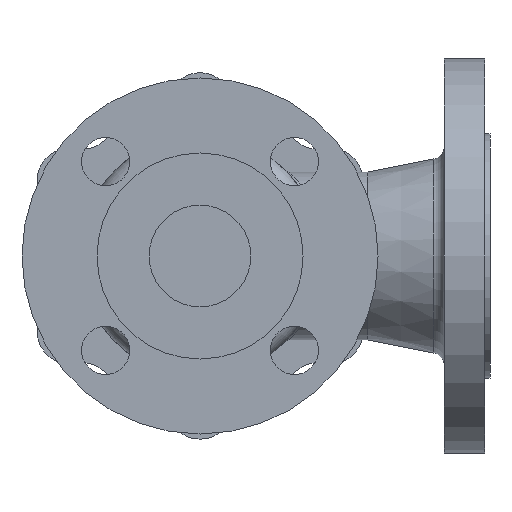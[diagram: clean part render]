
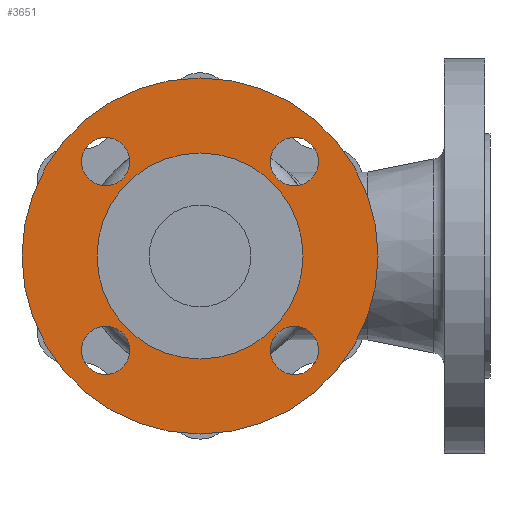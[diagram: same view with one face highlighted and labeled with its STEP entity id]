
A CAD part, front view. The second image highlights one B-rep face of the part: STEP entity #3651.
In plain terms, the highlighted planar face has unit normal (0, -1, 0).
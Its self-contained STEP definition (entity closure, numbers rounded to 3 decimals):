
#41 = DIRECTION ( 'NONE',  ( 0., 1., 0. ) ) ;
#66 = DIRECTION ( 'NONE',  ( -1., 0., 0. ) ) ;
#135 = EDGE_LOOP ( 'NONE', ( #5816, #3889 ) ) ;
#247 = EDGE_CURVE ( 'NONE', #5315, #4988, #5019, .T. ) ;
#250 = EDGE_CURVE ( 'NONE', #2681, #4029, #2945, .T. ) ;
#278 = EDGE_LOOP ( 'NONE', ( #5536, #4468 ) ) ;
#371 = VERTEX_POINT ( 'NONE', #2167 ) ;
#417 = CIRCLE ( 'NONE', #1626, 9.5 ) ;
#419 = DIRECTION ( 'NONE',  ( 0., 1., 0. ) ) ;
#459 = CARTESIAN_POINT ( 'NONE',  ( 0., -98., -70. ) ) ;
#462 = DIRECTION ( 'NONE',  ( 1., 0., 0. ) ) ;
#480 = EDGE_CURVE ( 'NONE', #4988, #5315, #1251, .T. ) ;
#511 = CARTESIAN_POINT ( 'NONE',  ( 0., -98., 0. ) ) ;
#547 = EDGE_CURVE ( 'NONE', #4622, #5573, #1762, .T. ) ;
#691 = CIRCLE ( 'NONE', #4169, 9.5 ) ;
#748 = EDGE_LOOP ( 'NONE', ( #957, #4821 ) ) ;
#783 = DIRECTION ( 'NONE',  ( 0., -1., 0. ) ) ;
#864 = DIRECTION ( 'NONE',  ( 0., -1., 0. ) ) ;
#869 = DIRECTION ( 'NONE',  ( 0., 0., -1. ) ) ;
#957 = ORIENTED_EDGE ( 'NONE', *, *, #2409, .F. ) ;
#1030 = AXIS2_PLACEMENT_3D ( 'NONE', #3151, #1311, #869 ) ;
#1067 = CARTESIAN_POINT ( 'NONE',  ( 0., -98., -40.5 ) ) ;
#1069 = VERTEX_POINT ( 'NONE', #2196 ) ;
#1185 = CARTESIAN_POINT ( 'NONE',  ( -37.123, -98., -37.123 ) ) ;
#1216 = AXIS2_PLACEMENT_3D ( 'NONE', #1185, #2556, #3986 ) ;
#1232 = CARTESIAN_POINT ( 'NONE',  ( 0., -98., 0. ) ) ;
#1247 = FACE_BOUND ( 'NONE', #3442, .T. ) ;
#1251 = CIRCLE ( 'NONE', #4725, 9.5 ) ;
#1311 = DIRECTION ( 'NONE',  ( 0., -1., 0. ) ) ;
#1392 = AXIS2_PLACEMENT_3D ( 'NONE', #1685, #5847, #3105 ) ;
#1406 = ORIENTED_EDGE ( 'NONE', *, *, #480, .F. ) ;
#1420 = CIRCLE ( 'NONE', #2311, 70. ) ;
#1489 = ORIENTED_EDGE ( 'NONE', *, *, #2377, .F. ) ;
#1626 = AXIS2_PLACEMENT_3D ( 'NONE', #1707, #783, #2696 ) ;
#1685 = CARTESIAN_POINT ( 'NONE',  ( 0., -98., 0. ) ) ;
#1707 = CARTESIAN_POINT ( 'NONE',  ( 37.123, -98., -37.123 ) ) ;
#1738 = DIRECTION ( 'NONE',  ( 0., 0., 1. ) ) ;
#1757 = AXIS2_PLACEMENT_3D ( 'NONE', #3693, #5690, #1899 ) ;
#1762 = CIRCLE ( 'NONE', #6125, 9.5 ) ;
#1856 = DIRECTION ( 'NONE',  ( 0., 1., 0. ) ) ;
#1899 = DIRECTION ( 'NONE',  ( -1., 0., 0. ) ) ;
#2036 = ORIENTED_EDGE ( 'NONE', *, *, #3388, .T. ) ;
#2100 = EDGE_CURVE ( 'NONE', #5623, #3330, #3012, .T. ) ;
#2108 = CARTESIAN_POINT ( 'NONE',  ( -37.123, -98., -46.623 ) ) ;
#2167 = CARTESIAN_POINT ( 'NONE',  ( -37.123, -98., 46.623 ) ) ;
#2173 = CARTESIAN_POINT ( 'NONE',  ( 0., -98., 70. ) ) ;
#2196 = CARTESIAN_POINT ( 'NONE',  ( 0., -98., 40.5 ) ) ;
#2252 = FACE_OUTER_BOUND ( 'NONE', #2494, .T. ) ;
#2311 = AXIS2_PLACEMENT_3D ( 'NONE', #1232, #1856, #1738 ) ;
#2347 = VERTEX_POINT ( 'NONE', #2807 ) ;
#2374 = DIRECTION ( 'NONE',  ( 0., 0., 1. ) ) ;
#2377 = EDGE_CURVE ( 'NONE', #3330, #5623, #1420, .T. ) ;
#2399 = CARTESIAN_POINT ( 'NONE',  ( -37.123, -98., -37.123 ) ) ;
#2403 = EDGE_CURVE ( 'NONE', #371, #2347, #4401, .T. ) ;
#2409 = EDGE_CURVE ( 'NONE', #5573, #4622, #417, .T. ) ;
#2487 = EDGE_LOOP ( 'NONE', ( #2036, #2990 ) ) ;
#2494 = EDGE_LOOP ( 'NONE', ( #4607, #1489 ) ) ;
#2509 = AXIS2_PLACEMENT_3D ( 'NONE', #2848, #41, #4333 ) ;
#2556 = DIRECTION ( 'NONE',  ( 0., -1., 0. ) ) ;
#2681 = VERTEX_POINT ( 'NONE', #3204 ) ;
#2683 = DIRECTION ( 'NONE',  ( 0., -1., 0. ) ) ;
#2696 = DIRECTION ( 'NONE',  ( 0., 0., 1. ) ) ;
#2730 = CARTESIAN_POINT ( 'NONE',  ( 37.123, -98., 27.623 ) ) ;
#2771 = FACE_BOUND ( 'NONE', #278, .T. ) ;
#2807 = CARTESIAN_POINT ( 'NONE',  ( -37.123, -98., 27.623 ) ) ;
#2848 = CARTESIAN_POINT ( 'NONE',  ( 0., -98., 0. ) ) ;
#2909 = AXIS2_PLACEMENT_3D ( 'NONE', #4701, #3162, #4239 ) ;
#2945 = CIRCLE ( 'NONE', #3344, 9.5 ) ;
#2990 = ORIENTED_EDGE ( 'NONE', *, *, #5073, .T. ) ;
#3012 = CIRCLE ( 'NONE', #5799, 70. ) ;
#3105 = DIRECTION ( 'NONE',  ( 0., 0., 1. ) ) ;
#3151 = CARTESIAN_POINT ( 'NONE',  ( -40.5, -98., 0. ) ) ;
#3158 = ORIENTED_EDGE ( 'NONE', *, *, #247, .F. ) ;
#3162 = DIRECTION ( 'NONE',  ( 0., -1., 0. ) ) ;
#3204 = CARTESIAN_POINT ( 'NONE',  ( -37.123, -98., -27.623 ) ) ;
#3330 = VERTEX_POINT ( 'NONE', #459 ) ;
#3344 = AXIS2_PLACEMENT_3D ( 'NONE', #2399, #864, #462 ) ;
#3388 = EDGE_CURVE ( 'NONE', #1069, #3729, #3915, .T. ) ;
#3442 = EDGE_LOOP ( 'NONE', ( #3158, #1406 ) ) ;
#3651 = ADVANCED_FACE ( 'NONE', ( #1247, #5132, #2771, #5978, #4103, #2252 ), #6014, .T. ) ;
#3684 = EDGE_CURVE ( 'NONE', #4029, #2681, #5582, .T. ) ;
#3693 = CARTESIAN_POINT ( 'NONE',  ( 37.123, -98., 37.123 ) ) ;
#3729 = VERTEX_POINT ( 'NONE', #1067 ) ;
#3740 = CARTESIAN_POINT ( 'NONE',  ( 37.123, -98., 46.623 ) ) ;
#3889 = ORIENTED_EDGE ( 'NONE', *, *, #2403, .F. ) ;
#3915 = CIRCLE ( 'NONE', #2509, 40.5 ) ;
#3979 = CIRCLE ( 'NONE', #1392, 40.5 ) ;
#3986 = DIRECTION ( 'NONE',  ( 1., 0., 0. ) ) ;
#4001 = CARTESIAN_POINT ( 'NONE',  ( 37.123, -98., -46.623 ) ) ;
#4029 = VERTEX_POINT ( 'NONE', #2108 ) ;
#4103 = FACE_BOUND ( 'NONE', #2487, .T. ) ;
#4169 = AXIS2_PLACEMENT_3D ( 'NONE', #5103, #2683, #4575 ) ;
#4238 = CARTESIAN_POINT ( 'NONE',  ( 37.123, -98., -37.123 ) ) ;
#4239 = DIRECTION ( 'NONE',  ( 0., 0., -1. ) ) ;
#4333 = DIRECTION ( 'NONE',  ( 0., 0., 1. ) ) ;
#4401 = CIRCLE ( 'NONE', #2909, 9.5 ) ;
#4468 = ORIENTED_EDGE ( 'NONE', *, *, #250, .F. ) ;
#4575 = DIRECTION ( 'NONE',  ( 0., 0., -1. ) ) ;
#4607 = ORIENTED_EDGE ( 'NONE', *, *, #2100, .F. ) ;
#4622 = VERTEX_POINT ( 'NONE', #6015 ) ;
#4701 = CARTESIAN_POINT ( 'NONE',  ( -37.123, -98., 37.123 ) ) ;
#4714 = DIRECTION ( 'NONE',  ( 0., 0., 1. ) ) ;
#4725 = AXIS2_PLACEMENT_3D ( 'NONE', #4731, #5762, #66 ) ;
#4731 = CARTESIAN_POINT ( 'NONE',  ( 37.123, -98., 37.123 ) ) ;
#4775 = EDGE_CURVE ( 'NONE', #2347, #371, #691, .T. ) ;
#4821 = ORIENTED_EDGE ( 'NONE', *, *, #547, .F. ) ;
#4988 = VERTEX_POINT ( 'NONE', #3740 ) ;
#5019 = CIRCLE ( 'NONE', #1757, 9.5 ) ;
#5073 = EDGE_CURVE ( 'NONE', #3729, #1069, #3979, .T. ) ;
#5103 = CARTESIAN_POINT ( 'NONE',  ( -37.123, -98., 37.123 ) ) ;
#5132 = FACE_BOUND ( 'NONE', #748, .T. ) ;
#5264 = DIRECTION ( 'NONE',  ( 0., -1., 0. ) ) ;
#5315 = VERTEX_POINT ( 'NONE', #2730 ) ;
#5536 = ORIENTED_EDGE ( 'NONE', *, *, #3684, .F. ) ;
#5573 = VERTEX_POINT ( 'NONE', #4001 ) ;
#5582 = CIRCLE ( 'NONE', #1216, 9.5 ) ;
#5623 = VERTEX_POINT ( 'NONE', #2173 ) ;
#5690 = DIRECTION ( 'NONE',  ( 0., -1., 0. ) ) ;
#5762 = DIRECTION ( 'NONE',  ( 0., -1., 0. ) ) ;
#5799 = AXIS2_PLACEMENT_3D ( 'NONE', #511, #419, #4714 ) ;
#5816 = ORIENTED_EDGE ( 'NONE', *, *, #4775, .F. ) ;
#5847 = DIRECTION ( 'NONE',  ( 0., 1., 0. ) ) ;
#5978 = FACE_BOUND ( 'NONE', #135, .T. ) ;
#6014 = PLANE ( 'NONE',  #1030 ) ;
#6015 = CARTESIAN_POINT ( 'NONE',  ( 37.123, -98., -27.623 ) ) ;
#6125 = AXIS2_PLACEMENT_3D ( 'NONE', #4238, #5264, #2374 ) ;
